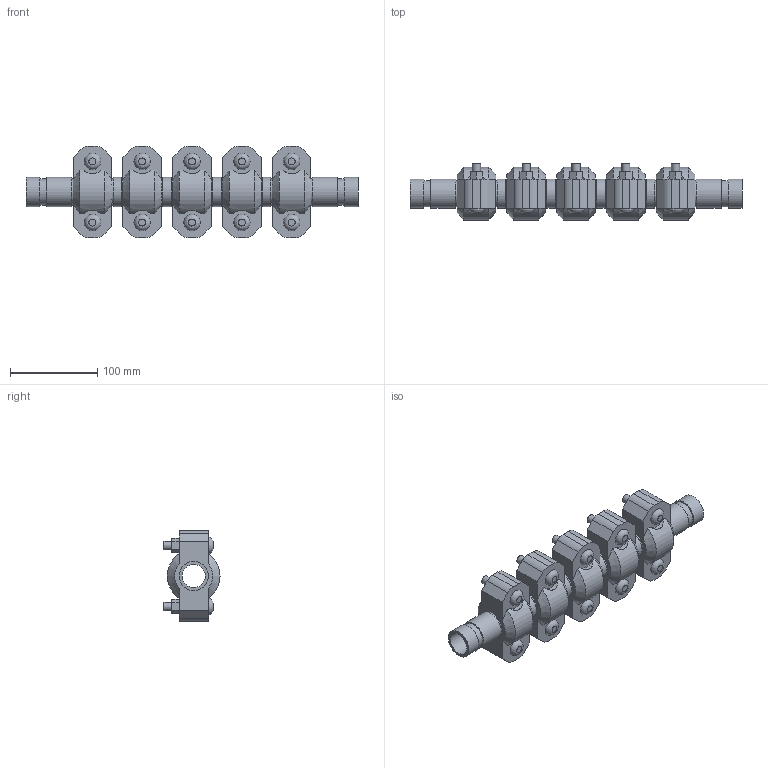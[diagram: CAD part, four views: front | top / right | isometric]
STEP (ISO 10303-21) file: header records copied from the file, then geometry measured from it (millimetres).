
FILE_DESCRIPTION(/* description */ ('VIC EXPANSION JOINT 5 COUPLINGS COMPRESSED STYLE 155 (OGS)','CAx-IF Rec.Pracs.---Representation and Presentation of Product Manufacturing Information (PMI)---4.0---2014-10-13'),/* implementation_level */ '2;1');
FILE_NAME(/* name */ 'C:\Users\kkamble\AppData\Roaming\Autodesk\ApplicationPlugins\Victaulic.Temp\A136\Victaulic_IPS_Expansion Joint_Compressed_5 Couplings_Style 155 (OGS)_1 (25).stp',/* time_stamp */ '2021-06-27T00:29:07+02:00',/* author */ ('kkamble'),/* organization */ ('Victaulic'),/* preprocessor_version */ 'ST-DEVELOPER v17.2',/* originating_system */ 'Autodesk Inventor 2019',/* authorisation */ '');
FILE_SCHEMA (('AP242_MANAGED_MODEL_BASED_3D_ENGINEERING_MIM_LF { 1 0 10303 442 1 1 4 }'));
Length unit declared in the file: inch
Products named in the file (4): 155-01.0; Nipple-01.0; Nipple-01.0_1; 077-01.0
Assembly tree (11 placements, depth 2):
  155-01.0
    Nipple-01.0  x2
    Nipple-01.0_1  x4
    077-01.0  x5
Bounding box: 381 x 64.33 x 104.65 mm (x, y, z)
Volume: 832413.8 mm3; surface area: 221641.2 mm2
Topology: 11 solids, 21 shells, 357 faces, 875 edges, 614 vertices
Faces by surface type: plane 206, cylinder 121, cone 20, bspline 10
Full cylindrical faces by diameter (mm): 9.525 x20, 11.43 x10, 26.645 x6, 30.226 x12, 33.401 x23
Entity records: 2891 total; most frequent: CARTESIAN_POINT 557, DIRECTION 467, ORIENTED_EDGE 398, EDGE_CURVE 199, AXIS2_PLACEMENT_3D 186, VERTEX_POINT 142, EDGE_LOOP 105, LINE 95
